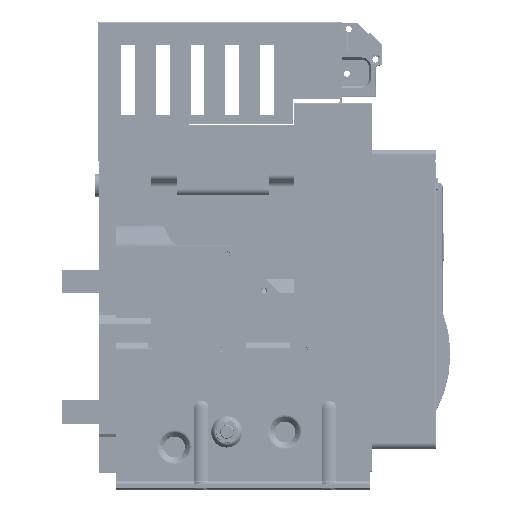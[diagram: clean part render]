
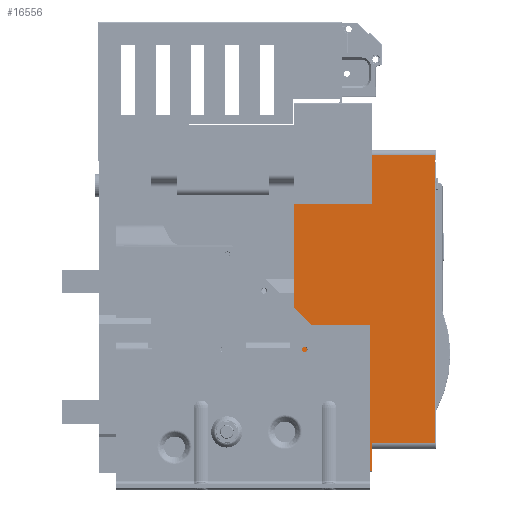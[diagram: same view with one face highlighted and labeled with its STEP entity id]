
A CAD part, front view. The second image highlights one B-rep face of the part: STEP entity #16556.
In plain terms, the highlighted planar face has unit normal (0, -1, 0) as drawn and (-1, 0, 0) by its records, which use the part's own axes.
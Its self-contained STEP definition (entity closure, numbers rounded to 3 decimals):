
#5093 = VERTEX_POINT ( 'NONE', #75636 ) ;
#9551 = DIRECTION ( 'NONE',  ( 0., 0., 1. ) ) ;
#16556 = ADVANCED_FACE ( 'NONE', ( #130131 ), #245794, .T. ) ;
#18310 = ORIENTED_EDGE ( 'NONE', *, *, #290363, .T. ) ;
#26439 = DIRECTION ( 'NONE',  ( 0., 1., 0. ) ) ;
#28081 = DIRECTION ( 'NONE',  ( 0., -1., 0. ) ) ;
#36072 = VECTOR ( 'NONE', #26439, 1000. ) ;
#40385 = VECTOR ( 'NONE', #317836, 1000. ) ;
#47950 = DIRECTION ( 'NONE',  ( 0., -1., 0. ) ) ;
#48764 = CARTESIAN_POINT ( 'NONE',  ( 324., -142.2, -76.95 ) ) ;
#54729 = ORIENTED_EDGE ( 'NONE', *, *, #117546, .T. ) ;
#63706 = EDGE_CURVE ( 'NONE', #84204, #295927, #265919, .T. ) ;
#72790 = EDGE_CURVE ( 'NONE', #307137, #80996, #102464, .T. ) ;
#75636 = CARTESIAN_POINT ( 'NONE',  ( 324., -209.2, 16.8 ) ) ;
#80996 = VERTEX_POINT ( 'NONE', #155017 ) ;
#84204 = VERTEX_POINT ( 'NONE', #253210 ) ;
#84812 = LINE ( 'NONE', #195143, #357908 ) ;
#91614 = VECTOR ( 'NONE', #9551, 1000. ) ;
#102464 = LINE ( 'NONE', #212785, #40385 ) ;
#111378 = LINE ( 'NONE', #279609, #36072 ) ;
#117546 = EDGE_CURVE ( 'NONE', #307137, #283579, #193852, .T. ) ;
#130131 = FACE_OUTER_BOUND ( 'NONE', #315464, .T. ) ;
#130966 = EDGE_CURVE ( 'NONE', #5093, #345349, #84812, .T. ) ;
#142660 = DIRECTION ( 'NONE',  ( 0., 0., 1. ) ) ;
#148783 = CARTESIAN_POINT ( 'NONE',  ( 324., -263.7, 59. ) ) ;
#155017 = CARTESIAN_POINT ( 'NONE',  ( 324., -209.2, -212.7 ) ) ;
#155181 = EDGE_CURVE ( 'NONE', #5093, #84204, #176371, .T. ) ;
#155601 = ORIENTED_EDGE ( 'NONE', *, *, #63706, .T. ) ;
#158760 = ORIENTED_EDGE ( 'NONE', *, *, #72790, .F. ) ;
#164043 = VECTOR ( 'NONE', #174592, 1000. ) ;
#170725 = ORIENTED_EDGE ( 'NONE', *, *, #260104, .T. ) ;
#174592 = DIRECTION ( 'NONE',  ( 0., 1., 0. ) ) ;
#176371 = LINE ( 'NONE', #181704, #164043 ) ;
#181704 = CARTESIAN_POINT ( 'NONE',  ( 324., -309.2, 16.8 ) ) ;
#186201 = DIRECTION ( 'NONE',  ( 0., 0., -1. ) ) ;
#189735 = CARTESIAN_POINT ( 'NONE',  ( 324., -142.2, -213.7 ) ) ;
#193852 = LINE ( 'NONE', #304235, #320692 ) ;
#195143 = CARTESIAN_POINT ( 'NONE',  ( 324., -209.2, 48.833 ) ) ;
#204663 = VECTOR ( 'NONE', #186201, 1000. ) ;
#205199 = VERTEX_POINT ( 'NONE', #292689 ) ;
#212785 = CARTESIAN_POINT ( 'NONE',  ( 324., -209.2, -76.95 ) ) ;
#218584 = ORIENTED_EDGE ( 'NONE', *, *, #155181, .T. ) ;
#219785 = LINE ( 'NONE', #328401, #342124 ) ;
#238920 = AXIS2_PLACEMENT_3D ( 'NONE', #189735, #240479, #242265 ) ;
#240479 = DIRECTION ( 'NONE',  ( -1., 0., 0. ) ) ;
#242265 = DIRECTION ( 'NONE',  ( 0., 0., 1. ) ) ;
#245794 = PLANE ( 'NONE',  #238920 ) ;
#246793 = CARTESIAN_POINT ( 'NONE',  ( 324., -142.2, -212.7 ) ) ;
#253210 = CARTESIAN_POINT ( 'NONE',  ( 324., -142.2, 16.8 ) ) ;
#260104 = EDGE_CURVE ( 'NONE', #283579, #205199, #338765, .T. ) ;
#261044 = ORIENTED_EDGE ( 'NONE', *, *, #302681, .T. ) ;
#262041 = ORIENTED_EDGE ( 'NONE', *, *, #130966, .F. ) ;
#265919 = LINE ( 'NONE', #48764, #204663 ) ;
#279609 = CARTESIAN_POINT ( 'NONE',  ( 324., -142.2, 59. ) ) ;
#283579 = VERTEX_POINT ( 'NONE', #309709 ) ;
#290363 = EDGE_CURVE ( 'NONE', #205199, #345349, #111378, .T. ) ;
#292689 = CARTESIAN_POINT ( 'NONE',  ( 324., -263.7, 59. ) ) ;
#295927 = VERTEX_POINT ( 'NONE', #246793 ) ;
#302681 = EDGE_CURVE ( 'NONE', #295927, #80996, #219785, .T. ) ;
#304235 = CARTESIAN_POINT ( 'NONE',  ( 324., -142.2, -189. ) ) ;
#307137 = VERTEX_POINT ( 'NONE', #315223 ) ;
#309709 = CARTESIAN_POINT ( 'NONE',  ( 324., -263.7, -189. ) ) ;
#315223 = CARTESIAN_POINT ( 'NONE',  ( 324., -209.2, -189. ) ) ;
#315464 = EDGE_LOOP ( 'NONE', ( #170725, #18310, #262041, #218584, #155601, #261044, #158760, #54729 ) ) ;
#317836 = DIRECTION ( 'NONE',  ( 0., 0., -1. ) ) ;
#320692 = VECTOR ( 'NONE', #47950, 1000. ) ;
#328401 = CARTESIAN_POINT ( 'NONE',  ( 324., -142.2, -212.7 ) ) ;
#338765 = LINE ( 'NONE', #148783, #91614 ) ;
#342124 = VECTOR ( 'NONE', #28081, 1000. ) ;
#345349 = VERTEX_POINT ( 'NONE', #356434 ) ;
#356434 = CARTESIAN_POINT ( 'NONE',  ( 324., -209.2, 59. ) ) ;
#357908 = VECTOR ( 'NONE', #142660, 1000. ) ;
